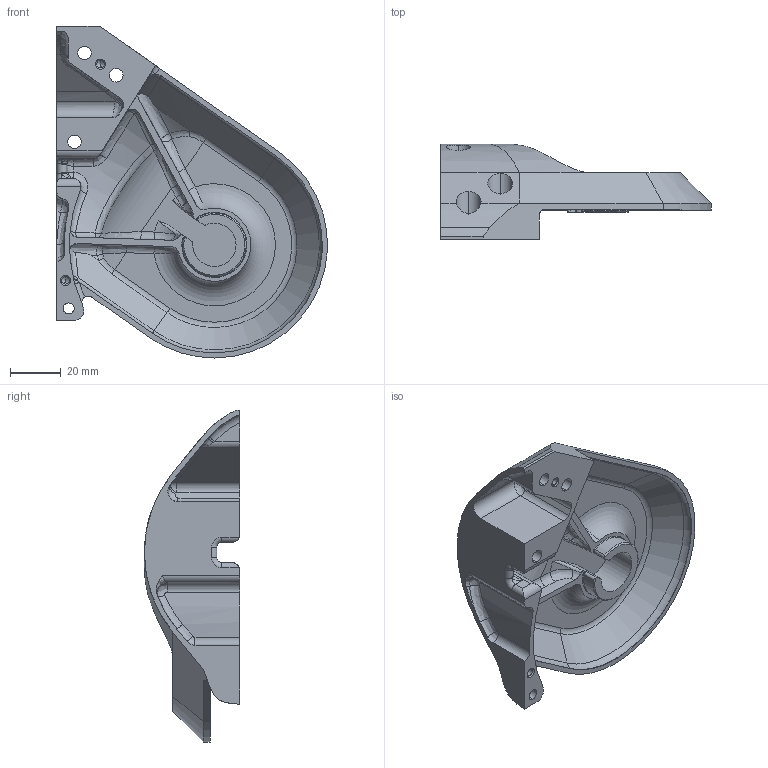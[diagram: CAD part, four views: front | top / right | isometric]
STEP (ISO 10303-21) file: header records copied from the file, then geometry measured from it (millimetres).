
FILE_DESCRIPTION((''),'2;1');
FILE_NAME('KD-D-103L_L_HIP_YOKE_IDLE_1','2025-07-12T15:28:26',('Administrator'),(''),'CREO PARAMETRIC BY PTC INC, 2022073','CREO PARAMETRIC BY PTC INC, 2022073','');
FILE_SCHEMA(('CONFIG_CONTROL_DESIGN'));
Length unit declared in the file: millimetre
Products named in the file (1): KD-D-103L_L_HIP_YOKE_IDLE_1
Bounding box: 106.41 x 37.45 x 130.47 mm (x, y, z)
Volume: 55136.2 mm3; surface area: 35880.1 mm2
Topology: 1 solids, 1 shells, 220 faces, 604 edges, 372 vertices
Faces by surface type: cylinder 82, bspline 48, plane 45, cone 19, torus 14, sphere 9, extrusion 3
Entity records: 8364 total; most frequent: CARTESIAN_POINT 3210, ORIENTED_EDGE 1170, DIRECTION 957, EDGE_CURVE 585, AXIS2_PLACEMENT_3D 379, VERTEX_POINT 372, EDGE_LOOP 233, FACE_OUTER_BOUND 220
